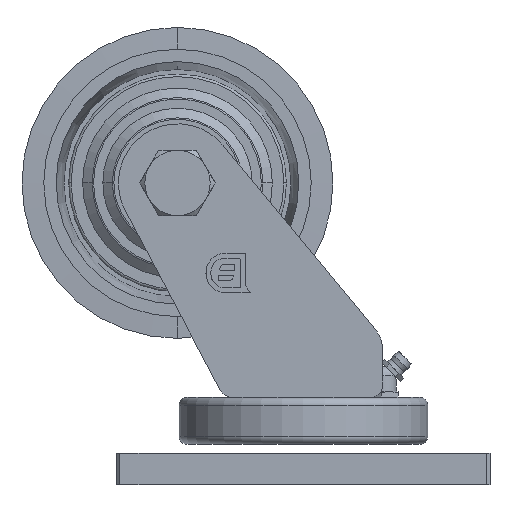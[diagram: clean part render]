
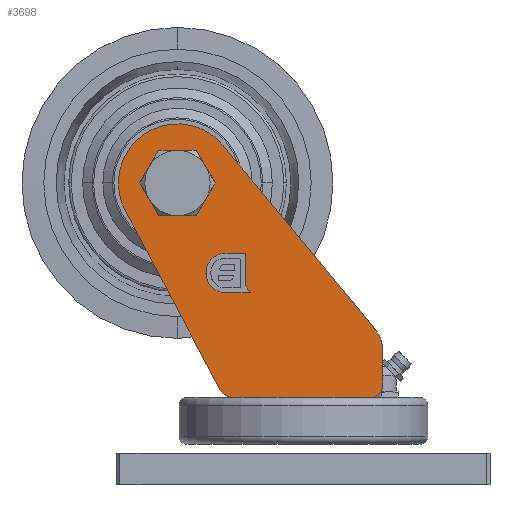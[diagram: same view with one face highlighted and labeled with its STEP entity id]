
A CAD part, left-side view. The second image highlights one B-rep face of the part: STEP entity #3698.
In plain terms, the highlighted planar face has unit normal (-1, 0, 0).
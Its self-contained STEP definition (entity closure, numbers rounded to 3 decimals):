
#3334=CARTESIAN_POINT('',(-31.5,40.5,97.));
#3335=DIRECTION('',(1.,0.,0.));
#3336=DIRECTION('',(0.,0.884,-0.468));
#3337=AXIS2_PLACEMENT_3D('',#3334,#3335,#3336);
#3339=CARTESIAN_POINT('',(-31.5,40.5,97.));
#3340=DIRECTION('',(1.,0.,0.));
#3341=DIRECTION('',(0.,1.,0.));
#3342=AXIS2_PLACEMENT_3D('',#3339,#3340,#3341);
#3344=DIRECTION('',(0.,-0.637,-0.771));
#3345=VECTOR('',#3344,76.993);
#3346=CARTESIAN_POINT('',(-31.5,25.858,109.108));
#3347=LINE('',#3346,#3345);
#3348=CARTESIAN_POINT('',(-31.5,-15.5,43.401));
#3349=DIRECTION('',(1.,0.,0.));
#3350=DIRECTION('',(0.,-0.771,0.637));
#3351=AXIS2_PLACEMENT_3D('',#3348,#3349,#3350);
#3353=DIRECTION('',(0.,0.,-1.));
#3354=VECTOR('',#3353,11.401);
#3355=CARTESIAN_POINT('',(-31.5,-25.5,43.401));
#3356=LINE('',#3355,#3354);
#3357=CARTESIAN_POINT('',(-31.5,-21.5,32.));
#3358=DIRECTION('',(1.,0.,0.));
#3359=DIRECTION('',(0.,-1.,0.));
#3360=AXIS2_PLACEMENT_3D('',#3357,#3358,#3359);
#3362=DIRECTION('',(0.,1.,0.));
#3363=VECTOR('',#3362,43.988);
#3364=CARTESIAN_POINT('',(-31.5,-21.5,28.));
#3365=LINE('',#3364,#3363);
#3366=CARTESIAN_POINT('',(-31.5,22.488,33.));
#3367=DIRECTION('',(1.,0.,0.));
#3368=DIRECTION('',(0.,0.,-1.));
#3369=AXIS2_PLACEMENT_3D('',#3366,#3367,#3368);
#3371=DIRECTION('',(0.,0.468,0.884));
#3372=VECTOR('',#3371,64.996);
#3373=CARTESIAN_POINT('',(-31.5,26.908,30.662));
#3374=LINE('',#3373,#3372);
#3375=DIRECTION('',(0.,0.,1.));
#3376=VECTOR('',#3375,10.404);
#3377=CARTESIAN_POINT('',(-31.5,18.656,63.902));
#3378=LINE('',#3377,#3376);
#3379=DIRECTION('',(0.,1.,0.007));
#3380=VECTOR('',#3379,6.576);
#3381=CARTESIAN_POINT('',(-31.5,18.656,74.306));
#3382=LINE('',#3381,#3380);
#3383=CARTESIAN_POINT('',(-31.5,25.231,74.355));
#3384=CARTESIAN_POINT('',(-31.5,25.704,74.357));
#3385=CARTESIAN_POINT('',(-31.5,26.623,74.256));
#3386=CARTESIAN_POINT('',(-31.5,27.949,73.78));
#3387=CARTESIAN_POINT('',(-31.5,29.125,73.005));
#3388=CARTESIAN_POINT('',(-31.5,29.758,72.332));
#3389=CARTESIAN_POINT('',(-31.5,30.04,71.952));
#3391=CARTESIAN_POINT('',(-31.5,30.04,71.952));
#3392=CARTESIAN_POINT('',(-31.5,30.362,71.513));
#3393=CARTESIAN_POINT('',(-31.5,30.887,70.591));
#3394=CARTESIAN_POINT('',(-31.5,31.326,69.038));
#3395=CARTESIAN_POINT('',(-31.5,31.383,67.436));
#3396=CARTESIAN_POINT('',(-31.5,31.055,65.855));
#3397=CARTESIAN_POINT('',(-31.5,30.598,64.899));
#3398=CARTESIAN_POINT('',(-31.5,30.308,64.438));
#3400=CARTESIAN_POINT('',(-31.5,30.308,64.438));
#3401=CARTESIAN_POINT('',(-31.5,30.039,64.019));
#3402=CARTESIAN_POINT('',(-31.5,29.423,63.272));
#3403=CARTESIAN_POINT('',(-31.5,28.227,62.399));
#3404=CARTESIAN_POINT('',(-31.5,26.852,61.855));
#3405=CARTESIAN_POINT('',(-31.5,25.891,61.732));
#3406=CARTESIAN_POINT('',(-31.5,25.393,61.729));
#3408=DIRECTION('',(0.,-1.,-0.002));
#3409=VECTOR('',#3408,8.297);
#3410=CARTESIAN_POINT('',(-31.5,25.393,61.729));
#3411=LINE('',#3410,#3409);
#3412=DIRECTION('',(0.,0.58,0.815));
#3413=VECTOR('',#3412,2.69);
#3414=CARTESIAN_POINT('',(-31.5,17.096,61.71));
#3415=LINE('',#3414,#3413);
#3416=CARTESIAN_POINT('',(-31.5,33.,97.));
#3417=CARTESIAN_POINT('',(-31.5,33.002,97.617));
#3418=CARTESIAN_POINT('',(-31.5,33.147,98.811));
#3419=CARTESIAN_POINT('',(-31.5,33.797,100.526));
#3420=CARTESIAN_POINT('',(-31.5,34.838,102.028));
#3421=CARTESIAN_POINT('',(-31.5,36.186,103.223));
#3422=CARTESIAN_POINT('',(-31.5,37.799,104.076));
#3423=CARTESIAN_POINT('',(-31.5,39.568,104.515));
#3424=CARTESIAN_POINT('',(-31.5,41.383,104.521));
#3425=CARTESIAN_POINT('',(-31.5,43.15,104.094));
#3426=CARTESIAN_POINT('',(-31.5,44.77,103.254));
#3427=CARTESIAN_POINT('',(-31.5,46.137,102.058));
#3428=CARTESIAN_POINT('',(-31.5,47.194,100.547));
#3429=CARTESIAN_POINT('',(-31.5,47.853,98.816));
#3430=CARTESIAN_POINT('',(-31.5,47.998,97.618));
#3431=CARTESIAN_POINT('',(-31.5,48.,97.));
#3433=CARTESIAN_POINT('',(-31.5,48.,97.));
#3434=CARTESIAN_POINT('',(-31.5,47.998,96.383));
#3435=CARTESIAN_POINT('',(-31.5,47.853,95.189));
#3436=CARTESIAN_POINT('',(-31.5,47.203,93.474));
#3437=CARTESIAN_POINT('',(-31.5,46.162,91.972));
#3438=CARTESIAN_POINT('',(-31.5,44.814,90.777));
#3439=CARTESIAN_POINT('',(-31.5,43.201,89.924));
#3440=CARTESIAN_POINT('',(-31.5,41.432,89.485));
#3441=CARTESIAN_POINT('',(-31.5,39.617,89.479));
#3442=CARTESIAN_POINT('',(-31.5,37.85,89.906));
#3443=CARTESIAN_POINT('',(-31.5,36.23,90.746));
#3444=CARTESIAN_POINT('',(-31.5,34.863,91.942));
#3445=CARTESIAN_POINT('',(-31.5,33.806,93.453));
#3446=CARTESIAN_POINT('',(-31.5,33.147,95.184));
#3447=CARTESIAN_POINT('',(-31.5,33.002,96.382));
#3448=CARTESIAN_POINT('',(-31.5,33.,97.));
#3464=CARTESIAN_POINT('',(-31.5,-21.5,28.));
#3465=CARTESIAN_POINT('',(-31.5,22.488,28.));
#3466=VERTEX_POINT('',#3464);
#3467=VERTEX_POINT('',#3465);
#3468=CARTESIAN_POINT('',(-31.5,18.656,63.902));
#3469=CARTESIAN_POINT('',(-31.5,18.656,74.306));
#3470=VERTEX_POINT('',#3468);
#3471=VERTEX_POINT('',#3469);
#3472=CARTESIAN_POINT('',(-31.5,25.231,74.355));
#3473=VERTEX_POINT('',#3472);
#3474=VERTEX_POINT('',#3389);
#3475=VERTEX_POINT('',#3398);
#3476=VERTEX_POINT('',#3406);
#3477=CARTESIAN_POINT('',(-31.5,17.096,61.71));
#3478=VERTEX_POINT('',#3477);
#3479=VERTEX_POINT('',#3416);
#3480=VERTEX_POINT('',#3431);
#3495=CARTESIAN_POINT('',(-31.5,59.5,97.));
#3496=CARTESIAN_POINT('',(-31.5,25.858,109.108));
#3497=VERTEX_POINT('',#3495);
#3498=VERTEX_POINT('',#3496);
#3499=CARTESIAN_POINT('',(-31.5,57.296,88.117));
#3500=VERTEX_POINT('',#3499);
#3501=CARTESIAN_POINT('',(-31.5,-23.207,49.774));
#3502=VERTEX_POINT('',#3501);
#3503=CARTESIAN_POINT('',(-31.5,-25.5,43.401));
#3504=VERTEX_POINT('',#3503);
#3505=CARTESIAN_POINT('',(-31.5,-25.5,32.));
#3506=VERTEX_POINT('',#3505);
#3507=CARTESIAN_POINT('',(-31.5,26.908,30.662));
#3508=VERTEX_POINT('',#3507);
#3657=CARTESIAN_POINT('',(-31.5,0.,28.));
#3658=DIRECTION('',(-1.,0.,0.));
#3659=DIRECTION('',(0.,1.,0.));
#3660=AXIS2_PLACEMENT_3D('',#3657,#3658,#3659);
#3661=PLANE('',#3660);
#3662=ORIENTED_EDGE('',*,*,#3559,.T.);
#3663=ORIENTED_EDGE('',*,*,#3557,.T.);
#3664=ORIENTED_EDGE('',*,*,#3581,.T.);
#3665=ORIENTED_EDGE('',*,*,#3602,.T.);
#3666=ORIENTED_EDGE('',*,*,#3623,.T.);
#3667=ORIENTED_EDGE('',*,*,#3644,.T.);
#3669=ORIENTED_EDGE('',*,*,#3668,.T.);
#3671=ORIENTED_EDGE('',*,*,#3670,.T.);
#3673=ORIENTED_EDGE('',*,*,#3672,.T.);
#3674=EDGE_LOOP('',(#3662,#3663,#3664,#3665,#3666,#3667,#3669,#3671,#3673));
#3675=FACE_OUTER_BOUND('',#3674,.F.);
#3677=ORIENTED_EDGE('',*,*,#3676,.T.);
#3679=ORIENTED_EDGE('',*,*,#3678,.T.);
#3681=ORIENTED_EDGE('',*,*,#3680,.T.);
#3683=ORIENTED_EDGE('',*,*,#3682,.T.);
#3685=ORIENTED_EDGE('',*,*,#3684,.T.);
#3687=ORIENTED_EDGE('',*,*,#3686,.T.);
#3689=ORIENTED_EDGE('',*,*,#3688,.T.);
#3690=EDGE_LOOP('',(#3677,#3679,#3681,#3683,#3685,#3687,#3689));
#3691=FACE_BOUND('',#3690,.F.);
#3693=ORIENTED_EDGE('',*,*,#3692,.T.);
#3695=ORIENTED_EDGE('',*,*,#3694,.T.);
#3696=EDGE_LOOP('',(#3693,#3695));
#3697=FACE_BOUND('',#3696,.F.);
#3698=ADVANCED_FACE('',(#3675,#3691,#3697),#3661,.T.);
#3338=CIRCLE('',#3337,19.);
#3343=CIRCLE('',#3342,19.);
#3352=CIRCLE('',#3351,10.);
#3361=CIRCLE('',#3360,4.);
#3370=CIRCLE('',#3369,5.);
#3390=B_SPLINE_CURVE_WITH_KNOTS('',3,(#3383,#3384,#3385,#3386,#3387,#3388,
#3389),.UNSPECIFIED.,.F.,.F.,(4,1,1,1,4),(0.,0.25,0.5,0.75,1.),
.UNSPECIFIED.);
#3399=B_SPLINE_CURVE_WITH_KNOTS('',3,(#3391,#3392,#3393,#3394,#3395,#3396,#3397,
#3398),.UNSPECIFIED.,.F.,.F.,(4,1,1,1,1,4),(0.,0.2,0.4,0.6,0.8,1.),
.UNSPECIFIED.);
#3407=B_SPLINE_CURVE_WITH_KNOTS('',3,(#3400,#3401,#3402,#3403,#3404,#3405,
#3406),.UNSPECIFIED.,.F.,.F.,(4,1,1,1,4),(0.,0.25,0.5,0.75,1.),
.UNSPECIFIED.);
#3432=B_SPLINE_CURVE_WITH_KNOTS('',3,(#3416,#3417,#3418,#3419,#3420,#3421,#3422,
#3423,#3424,#3425,#3426,#3427,#3428,#3429,#3430,#3431),.UNSPECIFIED.,.F.,.F.,(4,
1,1,1,1,1,1,1,1,1,1,1,1,4),(0.,0.077,0.154,
0.231,0.308,0.385,0.462,
0.538,0.615,0.692,0.769,
0.846,0.923,1.),.UNSPECIFIED.);
#3449=B_SPLINE_CURVE_WITH_KNOTS('',3,(#3433,#3434,#3435,#3436,#3437,#3438,#3439,
#3440,#3441,#3442,#3443,#3444,#3445,#3446,#3447,#3448),.UNSPECIFIED.,.F.,.F.,(4,
1,1,1,1,1,1,1,1,1,1,1,1,4),(0.,0.077,0.154,
0.231,0.308,0.385,0.462,
0.538,0.615,0.692,0.769,
0.846,0.923,1.),.UNSPECIFIED.);
#3557=EDGE_CURVE('',#3497,#3498,#3343,.T.);
#3559=EDGE_CURVE('',#3500,#3497,#3338,.T.);
#3581=EDGE_CURVE('',#3498,#3502,#3347,.T.);
#3602=EDGE_CURVE('',#3502,#3504,#3352,.T.);
#3623=EDGE_CURVE('',#3504,#3506,#3356,.T.);
#3644=EDGE_CURVE('',#3506,#3466,#3361,.T.);
#3668=EDGE_CURVE('',#3466,#3467,#3365,.T.);
#3670=EDGE_CURVE('',#3467,#3508,#3370,.T.);
#3672=EDGE_CURVE('',#3508,#3500,#3374,.T.);
#3676=EDGE_CURVE('',#3470,#3471,#3378,.T.);
#3678=EDGE_CURVE('',#3471,#3473,#3382,.T.);
#3680=EDGE_CURVE('',#3473,#3474,#3390,.T.);
#3682=EDGE_CURVE('',#3474,#3475,#3399,.T.);
#3684=EDGE_CURVE('',#3475,#3476,#3407,.T.);
#3686=EDGE_CURVE('',#3476,#3478,#3411,.T.);
#3688=EDGE_CURVE('',#3478,#3470,#3415,.T.);
#3692=EDGE_CURVE('',#3479,#3480,#3432,.T.);
#3694=EDGE_CURVE('',#3480,#3479,#3449,.T.);
